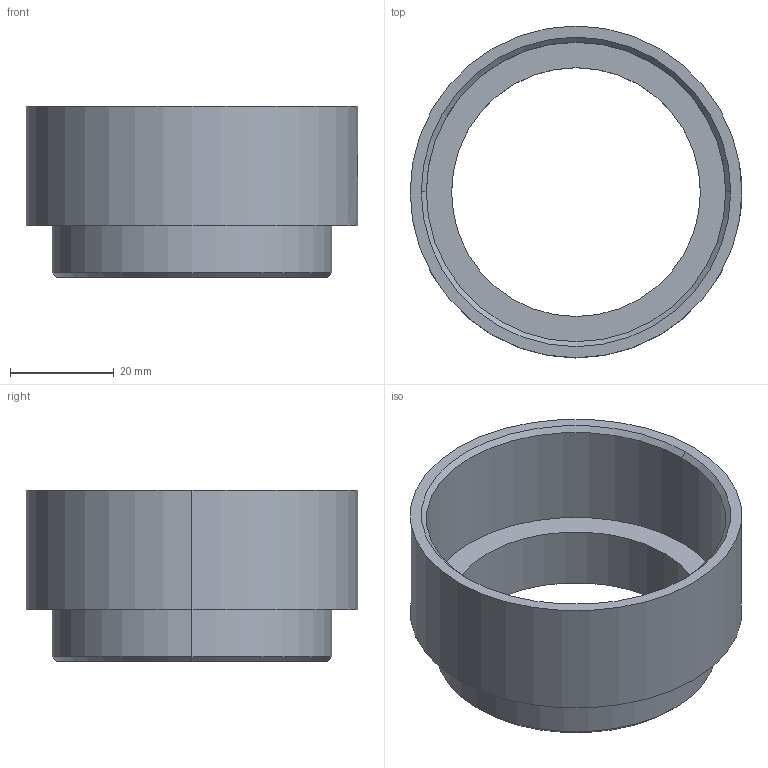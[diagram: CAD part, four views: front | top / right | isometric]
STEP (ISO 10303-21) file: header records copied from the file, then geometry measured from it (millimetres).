
FILE_DESCRIPTION (( 'STEP AP203' ), '1' );
FILE_NAME ('4248.STEP', '2005-11-22T09:42:14', ( ' ' ), ( '' ), 'SwSTEP 2.0', 'SolidWorks 2005278', '' );
FILE_SCHEMA (( 'CONFIG_CONTROL_DESIGN' ));
Length unit declared in the file: millimetre
Products named in the file (1): 4248
Bounding box: 64 x 64 x 33 mm (x, y, z)
Volume: 19961.1 mm3; surface area: 14571.2 mm2
Topology: 1 solids, 1 shells, 54 faces, 141 edges, 92 vertices
Faces by surface type: plane 38, cylinder 12, cone 4
Entity records: 1768 total; most frequent: CARTESIAN_POINT 348, ORIENTED_EDGE 282, DIRECTION 281, EDGE_CURVE 141, AXIS2_PLACEMENT_3D 105, VERTEX_POINT 92, LINE 71, VECTOR 71
